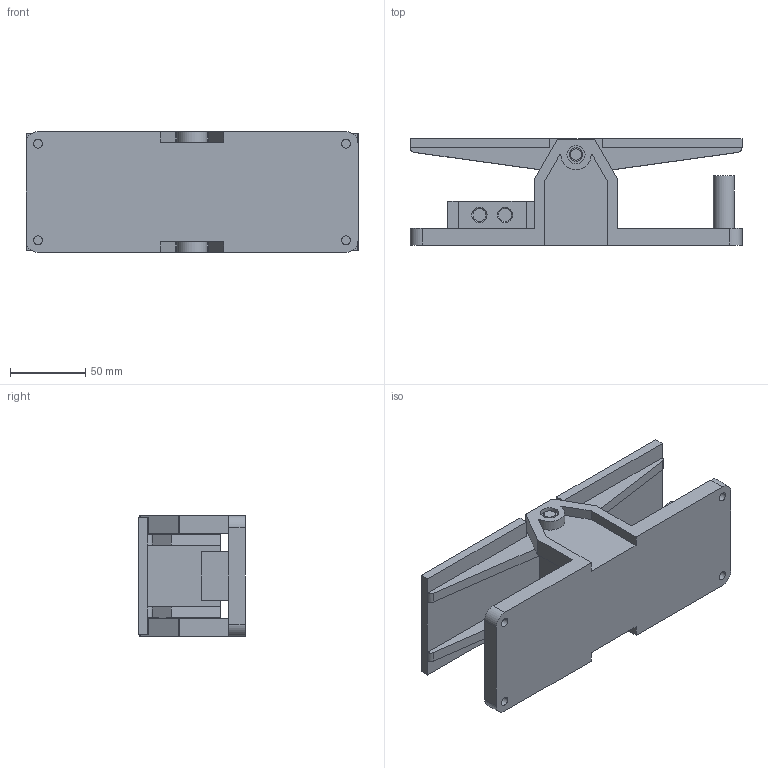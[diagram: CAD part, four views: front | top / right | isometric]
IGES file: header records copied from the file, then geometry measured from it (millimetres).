
Global section: file name: No Iges File Name specified; native system: AutoDesk Inventor R11.0; preprocessor: AutoDesk Inventor Iges Exporter R11.0; author: No Author specified; organization: No Organization specified; date: 20061219.114000; units: millimetre
Bounding box: 220 x 70.5 x 80 mm (x, y, z)
Volume: 417039.6 mm3; surface area: 115983.8 mm2
Topology: 2 solids, 2 shells, 151 faces, 388 edges, 254 vertices
Faces by surface type: plane 69, bspline 53, cylinder 21, revolution 8
